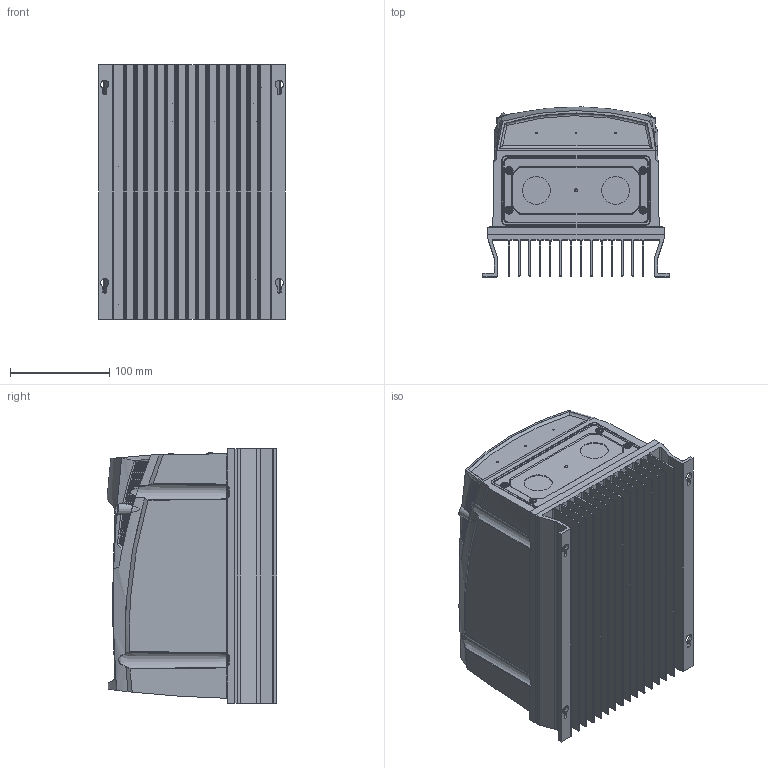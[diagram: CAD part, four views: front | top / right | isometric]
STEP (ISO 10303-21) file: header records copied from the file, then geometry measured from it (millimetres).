
FILE_DESCRIPTION (( 'STEP AP203' ), '1' );
FILE_NAME ('P2.IP66.SIZE2.NON-SW (ENVELOPE).STEP', '2020-05-19T13:17:10', ( '' ), ( '' ), 'SwSTEP 2.0', 'SolidWorks 2020', '' );
FILE_SCHEMA (( 'CONFIG_CONTROL_DESIGN' ));
Products named in the file (1): P2.IP66.SIZE2.NON-SW (ENVELOPE)
Bounding box: 188 x 171.36 x 257.09 mm (x, y, z)
Volume: 5282919.5 mm3; surface area: 511671.3 mm2
Topology: 1 solids, 43 shells, 2092 faces, 5876 edges, 3862 vertices
Faces by surface type: cylinder 642, plane 553, sphere 478, bspline 223, cone 152, torus 44
Full cylindrical faces by diameter (mm): 1 x38, 3 x1, 3.3 x37, 3.5 x2, 4.5 x8, 5.3 x2, 6 x2, 7 x4, 7.3 x2, 7.9 x4, 28 x2
Entity records: 79887 total; most frequent: CARTESIAN_POINT 41298, ORIENTED_EDGE 8164, DIRECTION 6890, EDGE_CURVE 4082, AXIS2_PLACEMENT_3D 2791, VERTEX_POINT 2746, EDGE_LOOP 2398, FACE_OUTER_BOUND 2002
